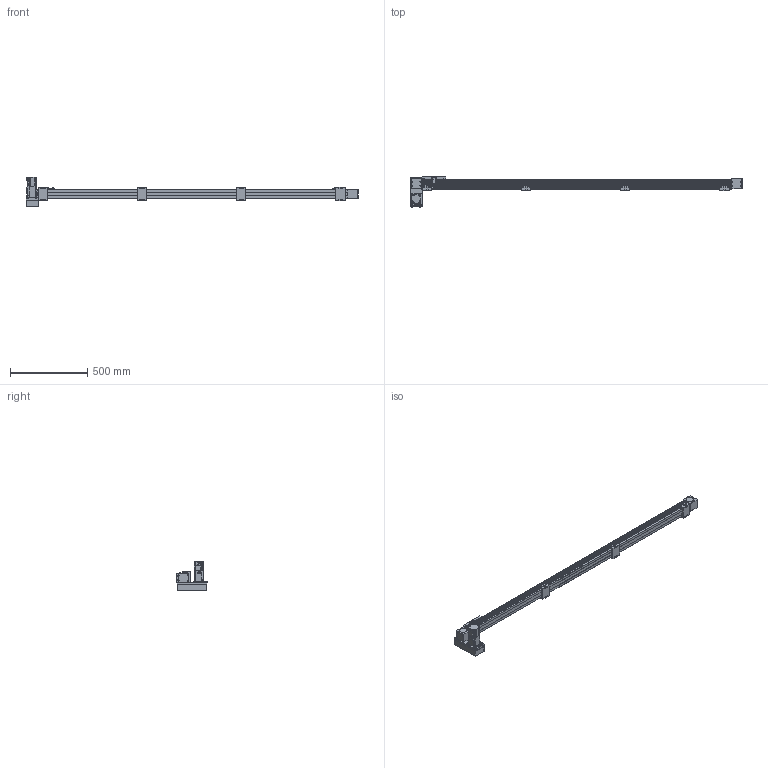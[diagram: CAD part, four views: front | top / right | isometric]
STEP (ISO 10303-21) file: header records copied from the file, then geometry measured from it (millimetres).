
FILE_DESCRIPTION(/* description */ ('STEP AP214'),/* implementation_level */ '2;1');
FILE_NAME(/* name */ 'SK60-P13-S1850-LD-T40-C1-N(0)',/* time_stamp */ '2023-04-06T04:39:26+02:00',/* author */ ('License CC BY-ND 4.0'),/* organization */ ('CADENAS'),/* preprocessor_version */ 'ST-DEVELOPER v19.3',/* originating_system */ 'PARTsolutions',/* authorisation */ ' ');
FILE_SCHEMA (('AUTOMOTIVE_DESIGN {1 0 10303 214 3 1 1}'));
Length unit declared in the file: millimetre
Products named in the file (10): SK60-P13-S1850-LD-T40-C1-N(0); PSC140-sensor; SK60-S450_seat; SK60-S450-BL-C1_slider; SK60_body3; SK60_body6; SK60-BL_body2; T40-p1; SK60-LD_fb; SK60-S1850-LD-C1_body
Assembly tree (18 placements, depth 2):
  SK60-P13-S1850-LD-T40-C1-N(0)
    PSC140-sensor  x3
    SK60-S450_seat  x4
    SK60-S450-BL-C1_slider
    SK60_body3  x3
    SK60_body6  x2
    SK60-BL_body2  x2
    T40-p1
    SK60-LD_fb
    SK60-S1850-LD-C1_body
Bounding box: 2155.5 x 199 x 189.7 mm (x, y, z)
Volume: 8504400.6 mm3; surface area: 1019682.6 mm2
Topology: 18 solids, 18 shells, 898 faces, 2244 edges, 1477 vertices
Faces by surface type: plane 572, cylinder 294, cone 30, torus 2
Full cylindrical faces by diameter (mm): 2.8 x3, 3.3 x4, 4 x2, 4.5 x30, 4.6 x3, 4.917 x24, 5 x6, 5.478 x4, 5.5 x27, 6.5 x8, 7 x2, 8 x4, 8.5 x4, 9.988 x4, 10 x16, 14 x1, 47 x3, 50 x2
Entity records: 18671 total; most frequent: DIRECTION 3188, CARTESIAN_POINT 3152, ORIENTED_EDGE 2940, EDGE_CURVE 1470, AXIS2_PLACEMENT_3D 1070, LINE 1048, VECTOR 1048, VERTEX_POINT 1034
